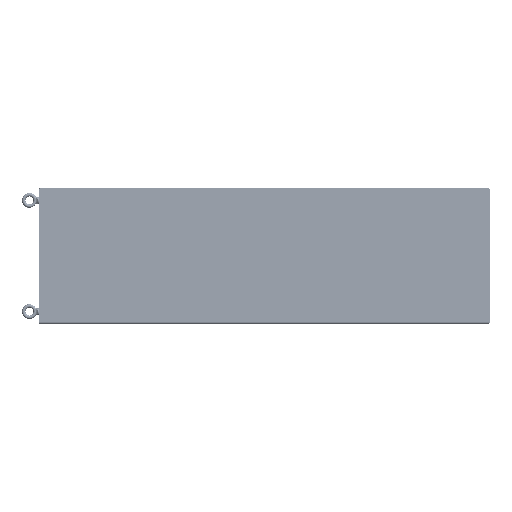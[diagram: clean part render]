
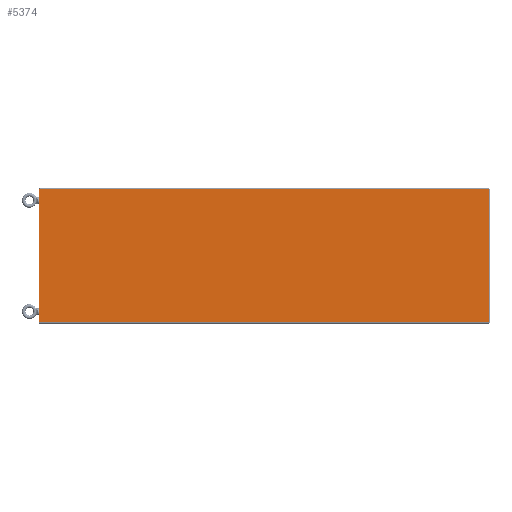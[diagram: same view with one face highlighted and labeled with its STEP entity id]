
A CAD part, front view. The second image highlights one B-rep face of the part: STEP entity #5374.
In plain terms, the highlighted planar face has unit normal (0, -1, 0) as drawn and (0, 0, 1) by its records, which use the part's own axes.
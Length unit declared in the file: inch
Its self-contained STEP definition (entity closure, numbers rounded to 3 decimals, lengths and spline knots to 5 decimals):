
#2127=DIRECTION('',(1.,0.,0.));
#2128=VECTOR('',#2127,78.532);
#2129=CARTESIAN_POINT('',(0.,0.2465,0.052));
#2130=LINE('',#2129,#2128);
#2157=CARTESIAN_POINT('',(0.015,23.503,0.052));
#2158=DIRECTION('',(0.,0.,1.));
#2159=DIRECTION('',(0.,1.,0.));
#2160=AXIS2_PLACEMENT_3D('',#2157,#2158,#2159);
#2165=DIRECTION('',(-1.,0.,0.));
#2166=VECTOR('',#2165,78.502);
#2167=CARTESIAN_POINT('',(78.517,23.518,0.052));
#2168=LINE('',#2167,#2166);
#2172=CARTESIAN_POINT('',(78.517,23.503,0.052));
#2173=DIRECTION('',(0.,0.,1.));
#2174=DIRECTION('',(1.,0.,0.));
#2175=AXIS2_PLACEMENT_3D('',#2172,#2173,#2174);
#2180=DIRECTION('',(0.,1.,0.));
#2181=VECTOR('',#2180,23.2565);
#2182=CARTESIAN_POINT('',(78.532,0.2465,0.052));
#2183=LINE('',#2182,#2181);
#2187=DIRECTION('',(0.,-1.,0.));
#2188=VECTOR('',#2187,23.2565);
#2189=CARTESIAN_POINT('',(0.,23.503,0.052));
#2190=LINE('',#2189,#2188);
#3591=CARTESIAN_POINT('',(0.,0.2465,0.052));
#3592=CARTESIAN_POINT('',(78.532,0.2465,0.052));
#3593=VERTEX_POINT('',#3591);
#3594=VERTEX_POINT('',#3592);
#3607=CARTESIAN_POINT('',(0.015,23.518,0.052));
#3608=CARTESIAN_POINT('',(0.,23.503,0.052));
#3609=VERTEX_POINT('',#3607);
#3610=VERTEX_POINT('',#3608);
#3615=CARTESIAN_POINT('',(78.532,23.503,0.052));
#3616=CARTESIAN_POINT('',(78.517,23.518,0.052));
#3617=VERTEX_POINT('',#3615);
#3618=VERTEX_POINT('',#3616);
#5356=CARTESIAN_POINT('',(78.532,0.,0.052));
#5357=DIRECTION('',(0.,0.,1.));
#5358=DIRECTION('',(1.,0.,0.));
#5359=AXIS2_PLACEMENT_3D('',#5356,#5357,#5358);
#5360=PLANE('',#5359);
#5362=ORIENTED_EDGE('',*,*,#5361,.F.);
#5364=ORIENTED_EDGE('',*,*,#5363,.F.);
#5366=ORIENTED_EDGE('',*,*,#5365,.F.);
#5368=ORIENTED_EDGE('',*,*,#5367,.F.);
#5369=ORIENTED_EDGE('',*,*,#5347,.F.);
#5371=ORIENTED_EDGE('',*,*,#5370,.F.);
#5372=EDGE_LOOP('',(#5362,#5364,#5366,#5368,#5369,#5371));
#5373=FACE_OUTER_BOUND('',#5372,.F.);
#2161=CIRCLE('',#2160,0.015);
#2176=CIRCLE('',#2175,0.015);
#5347=EDGE_CURVE('',#3593,#3594,#2130,.T.);
#5361=EDGE_CURVE('',#3609,#3610,#2161,.T.);
#5363=EDGE_CURVE('',#3618,#3609,#2168,.T.);
#5365=EDGE_CURVE('',#3617,#3618,#2176,.T.);
#5367=EDGE_CURVE('',#3594,#3617,#2183,.T.);
#5370=EDGE_CURVE('',#3610,#3593,#2190,.T.);
#5374=ADVANCED_FACE('',(#5373),#5360,.T.);
